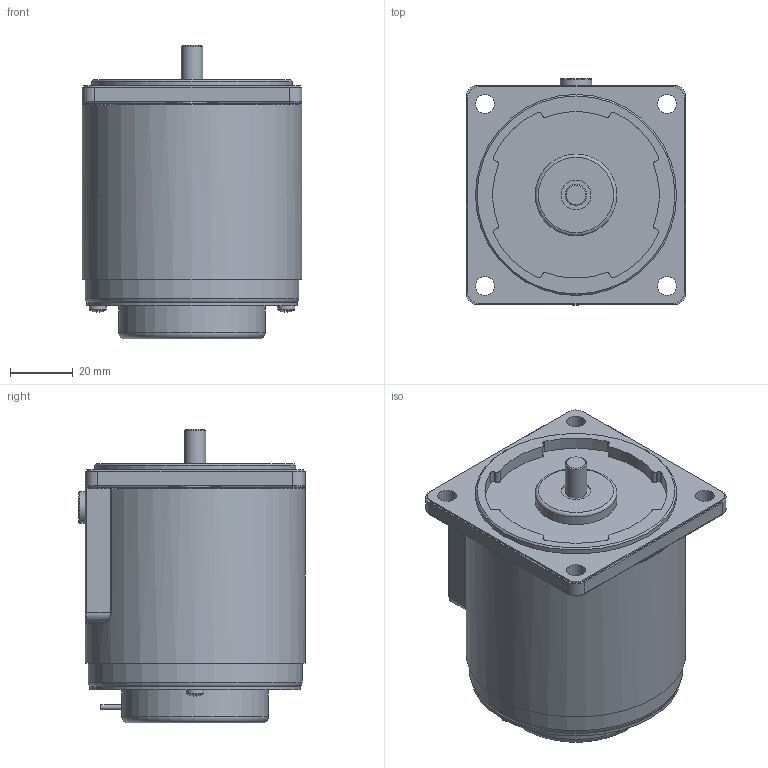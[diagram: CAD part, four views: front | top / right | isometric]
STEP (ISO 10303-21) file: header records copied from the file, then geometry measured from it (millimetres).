
FILE_DESCRIPTION (( 'STEP AP214' ), '1' );
FILE_NAME ('7SDG¤±-6G.STEP', '2025-01-13T08:16:09', ( '' ), ( '' ), 'SwSTEP 2.0', 'SolidWorks 2024', '' );
FILE_SCHEMA (( 'AUTOMOTIVE_DESIGN' ));
Length unit declared in the file: millimetre
Products named in the file (1): 7SDGㅁ-6G
Bounding box: 70.01 x 72 x 93.5 mm (x, y, z)
Volume: 294355.2 mm3; surface area: 31257.5 mm2
Topology: 1 solids, 2 shells, 188 faces, 455 edges, 290 vertices
Faces by surface type: cylinder 71, plane 71, bspline 28, torus 16, cone 2
Full cylindrical faces by diameter (mm): 1.6 x2, 5.5 x2, 6 x5, 6.8 x1, 9.5 x1, 10 x5, 26 x1, 34.5 x1, 46.7 x1, 64 x1, 67 x1, 68.1 x1, 70 x1
Entity records: 7445 total; most frequent: CARTESIAN_POINT 3367, ORIENTED_EDGE 830, DIRECTION 778, EDGE_CURVE 415, AXIS2_PLACEMENT_3D 310, VERTEX_POINT 281, EDGE_LOOP 246, FACE_OUTER_BOUND 217
